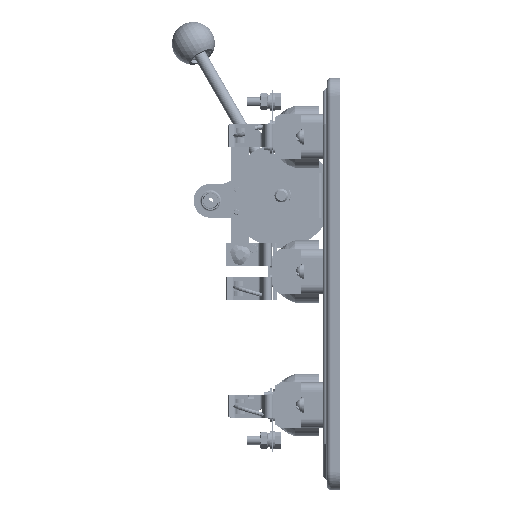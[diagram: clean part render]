
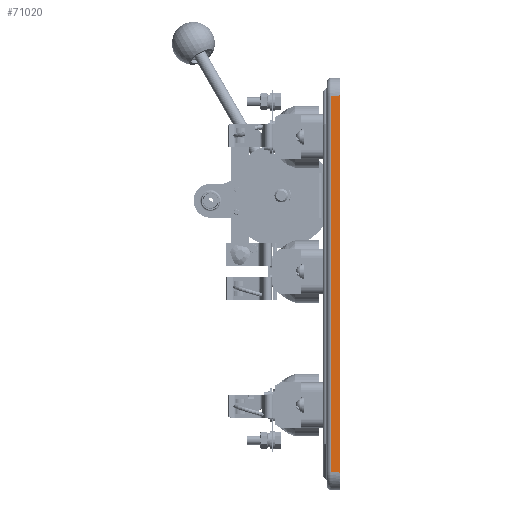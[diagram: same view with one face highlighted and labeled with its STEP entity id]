
A CAD part, left-side view. The second image highlights one B-rep face of the part: STEP entity #71020.
In plain terms, the highlighted planar face has unit normal (-1, 0, 0).
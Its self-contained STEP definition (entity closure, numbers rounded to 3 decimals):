
#70705 = VERTEX_POINT ( 'NONE', #87753 ) ;
#70713 = VERTEX_POINT ( 'NONE', #87704 ) ;
#70727 = EDGE_LOOP ( 'NONE', ( #71023, #71029, #71034, #71032, #71026, #71000, #70748, #71002 ) ) ;
#70728 = VERTEX_POINT ( 'NONE', #87692 ) ;
#70735 = VERTEX_POINT ( 'NONE', #87686 ) ;
#70741 = EDGE_CURVE ( 'NONE', #70713, #70705, #87703, .T. ) ;
#70744 = EDGE_CURVE ( 'NONE', #71017, #71031, #87482, .T. ) ;
#70746 = EDGE_CURVE ( 'NONE', #70705, #70735, #87490, .T. ) ;
#70748 = ORIENTED_EDGE ( 'NONE', *, *, #70744, .F. ) ;
#70953 = EDGE_CURVE ( 'NONE', #71015, #71016, #88623, .T. ) ;
#70996 = EDGE_CURVE ( 'NONE', #70735, #71031, #86998, .T. ) ;
#71000 = ORIENTED_EDGE ( 'NONE', *, *, #70996, .T. ) ;
#71002 = ORIENTED_EDGE ( 'NONE', *, *, #71003, .T. ) ;
#71003 = EDGE_CURVE ( 'NONE', #71017, #71015, #88933, .T. ) ;
#71015 = VERTEX_POINT ( 'NONE', #88893 ) ;
#71016 = VERTEX_POINT ( 'NONE', #88934 ) ;
#71017 = VERTEX_POINT ( 'NONE', #88883 ) ;
#71020 = ADVANCED_FACE ( 'NONE', ( #88834 ), #88848, .T. ) ;
#71023 = ORIENTED_EDGE ( 'NONE', *, *, #70953, .T. ) ;
#71024 = EDGE_CURVE ( 'NONE', #71016, #70728, #89213, .T. ) ;
#71026 = ORIENTED_EDGE ( 'NONE', *, *, #70746, .T. ) ;
#71029 = ORIENTED_EDGE ( 'NONE', *, *, #71024, .T. ) ;
#71030 = EDGE_CURVE ( 'NONE', #70713, #70728, #89197, .T. ) ;
#71031 = VERTEX_POINT ( 'NONE', #88926 ) ;
#71032 = ORIENTED_EDGE ( 'NONE', *, *, #70741, .T. ) ;
#71034 = ORIENTED_EDGE ( 'NONE', *, *, #71030, .F. ) ;
#86996 = CARTESIAN_POINT ( 'NONE',  ( -132., 9.6, -165.8 ) ) ;
#86998 = LINE ( 'NONE', #86996, #87016 ) ;
#87016 = VECTOR ( 'NONE', #87464, 1000. ) ;
#87464 = DIRECTION ( 'NONE',  ( 0., -1., 0. ) ) ;
#87467 = DIRECTION ( 'NONE',  ( 0., 0., -1. ) ) ;
#87468 = VECTOR ( 'NONE', #87467, 1000. ) ;
#87469 = CARTESIAN_POINT ( 'NONE',  ( -132., 6.6, 180.8 ) ) ;
#87478 = DIRECTION ( 'NONE',  ( 0., 0., 1. ) ) ;
#87479 = VECTOR ( 'NONE', #87478, 1000. ) ;
#87480 = CARTESIAN_POINT ( 'NONE',  ( -132., 0., -182. ) ) ;
#87482 = LINE ( 'NONE', #87480, #87479 ) ;
#87486 = DIRECTION ( 'NONE',  ( 0., 1., 0. ) ) ;
#87487 = VECTOR ( 'NONE', #87486, 1000. ) ;
#87490 = LINE ( 'NONE', #87469, #87468 ) ;
#87686 = CARTESIAN_POINT ( 'NONE',  ( -132., 6.6, -165.8 ) ) ;
#87692 = CARTESIAN_POINT ( 'NONE',  ( -132., 0., 167. ) ) ;
#87702 = CARTESIAN_POINT ( 'NONE',  ( -132., 9.6, 165.8 ) ) ;
#87703 = LINE ( 'NONE', #87702, #87487 ) ;
#87704 = CARTESIAN_POINT ( 'NONE',  ( -132., 0., 165.8 ) ) ;
#87753 = CARTESIAN_POINT ( 'NONE',  ( -132., 6.6, 165.8 ) ) ;
#88620 = DIRECTION ( 'NONE',  ( 0., 0., 1. ) ) ;
#88621 = VECTOR ( 'NONE', #88620, 1000. ) ;
#88622 = CARTESIAN_POINT ( 'NONE',  ( -132., -1.2, -182. ) ) ;
#88623 = LINE ( 'NONE', #88622, #88621 ) ;
#88834 = FACE_OUTER_BOUND ( 'NONE', #70727, .T. ) ;
#88838 = AXIS2_PLACEMENT_3D ( 'NONE', #89207, #89206, #89205 ) ;
#88848 = PLANE ( 'NONE',  #88838 ) ;
#88883 = CARTESIAN_POINT ( 'NONE',  ( -132., 0., -167. ) ) ;
#88887 = DIRECTION ( 'NONE',  ( 0., -1., 0. ) ) ;
#88889 = VECTOR ( 'NONE', #88887, 1000. ) ;
#88891 = CARTESIAN_POINT ( 'NONE',  ( -132., -1.2, -167. ) ) ;
#88893 = CARTESIAN_POINT ( 'NONE',  ( -132., -1.2, -167. ) ) ;
#88926 = CARTESIAN_POINT ( 'NONE',  ( -132., 0., -165.8 ) ) ;
#88933 = LINE ( 'NONE', #88891, #88889 ) ;
#88934 = CARTESIAN_POINT ( 'NONE',  ( -132., -1.2, 167. ) ) ;
#89172 = VECTOR ( 'NONE', #89214, 1000. ) ;
#89197 = LINE ( 'NONE', #89215, #89172 ) ;
#89198 = DIRECTION ( 'NONE',  ( 0., 1., 0. ) ) ;
#89200 = VECTOR ( 'NONE', #89198, 1000. ) ;
#89205 = DIRECTION ( 'NONE',  ( 0., 0., 1. ) ) ;
#89206 = DIRECTION ( 'NONE',  ( -1., 0., 0. ) ) ;
#89207 = CARTESIAN_POINT ( 'NONE',  ( -132., 0., -182. ) ) ;
#89212 = CARTESIAN_POINT ( 'NONE',  ( -132., 0., 167. ) ) ;
#89213 = LINE ( 'NONE', #89212, #89200 ) ;
#89214 = DIRECTION ( 'NONE',  ( 0., 0., 1. ) ) ;
#89215 = CARTESIAN_POINT ( 'NONE',  ( -132., 0., -182. ) ) ;
